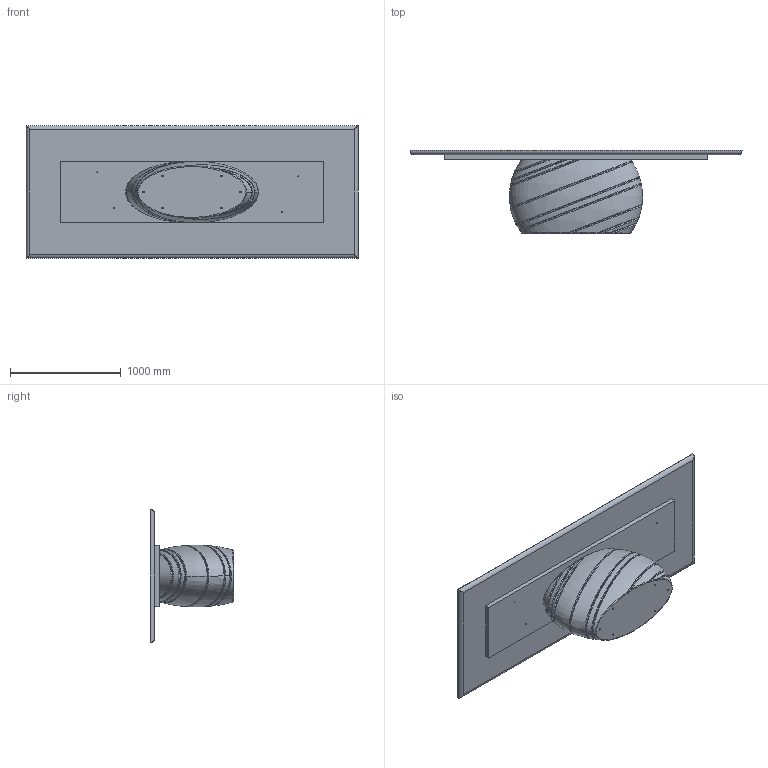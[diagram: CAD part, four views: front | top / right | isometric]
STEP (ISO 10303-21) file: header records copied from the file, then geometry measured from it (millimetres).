
FILE_DESCRIPTION (( 'STEP AP203' ), '1' );
FILE_NAME ('GI24W.STEP', '2025-04-22T14:21:34', ( '' ), ( '' ), 'SwSTEP 2.0', 'SolidWorks 2022', '' );
FILE_SCHEMA (( 'CONFIG_CONTROL_DESIGN' ));
Length unit declared in the file: millimetre
Products named in the file (3): GI24W; PIANI_modello 3D x web_Legno 300x120; GIB000xxx-00-BASE GIOVE X 300
Assembly tree (2 placements, depth 2):
  GI24W
    PIANI_modello 3D x web_Legno 300x120
    GIB000xxx-00-BASE GIOVE X 300
Bounding box: 3000 x 750 x 1200 mm (x, y, z)
Volume: 504288796.2 mm3; surface area: 13053177 mm2
Topology: 3 solids, 3 shells, 152 faces, 365 edges, 234 vertices
Faces by surface type: bspline 53, cylinder 40, plane 35, cone 24
Entity records: 37042 total; most frequent: CARTESIAN_POINT 33591, ORIENTED_EDGE 730, DIRECTION 524, EDGE_CURVE 365, VERTEX_POINT 234, AXIS2_PLACEMENT_3D 212, EDGE_LOOP 179, B_SPLINE_CURVE_WITH_KNOTS 153
